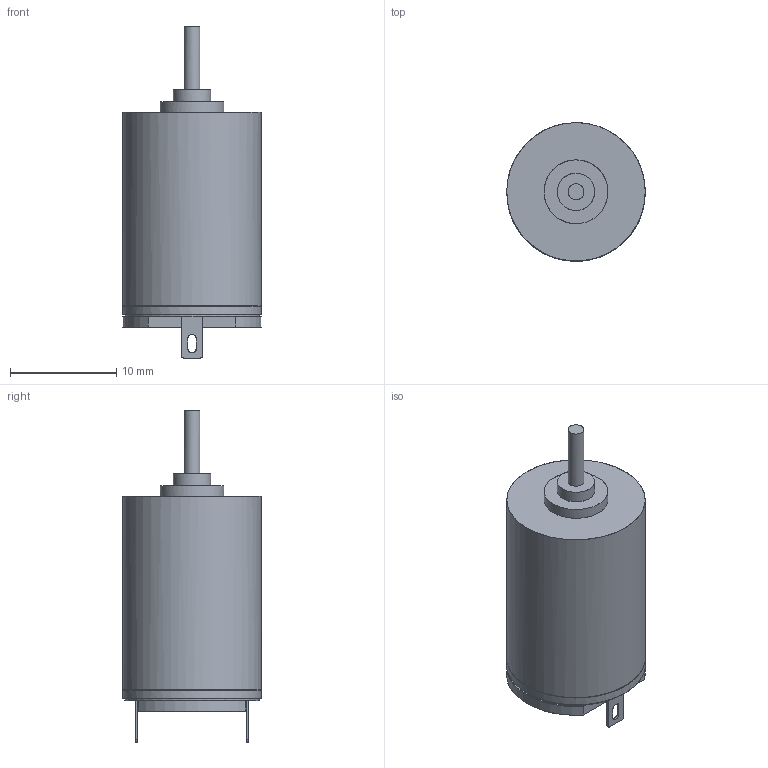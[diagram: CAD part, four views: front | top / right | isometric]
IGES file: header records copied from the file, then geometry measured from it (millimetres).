
Global section: file name: E:\WORK\MISC\DI\MOTORS\2011-11-25\1319TSR.igs; native system: NX V7.5; preprocessor: SIEMENS PLM Software NX 7.5; date: 20111221.002912; units: millimetre
Bounding box: 13 x 13 x 31.2 mm (x, y, z)
Surface area: 1193.5 mm2 (no closed solid volume)
Topology: 0 solids, 0 shells, 44 faces, 406 edges, 510 vertices
Faces by surface type: bspline 44
